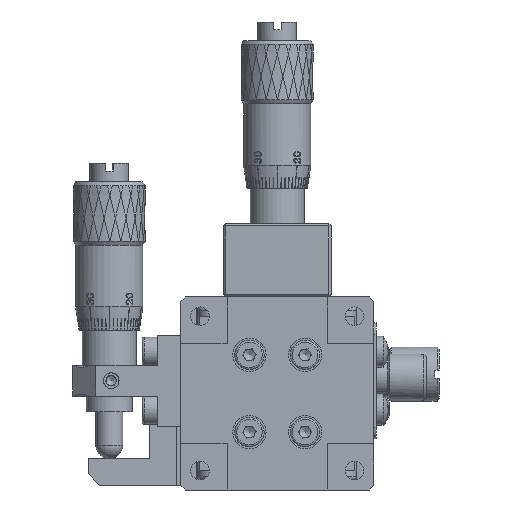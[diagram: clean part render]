
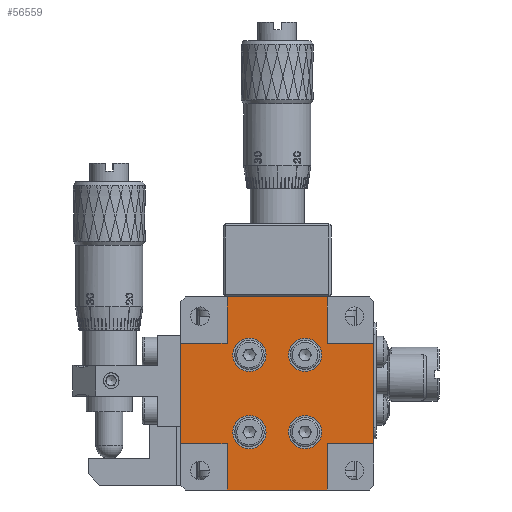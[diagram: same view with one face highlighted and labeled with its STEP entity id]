
A CAD part, front view. The second image highlights one B-rep face of the part: STEP entity #56559.
In plain terms, the highlighted planar face has unit normal (0, -1, 0).
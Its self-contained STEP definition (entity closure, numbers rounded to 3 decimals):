
#450 = DIRECTION ( 'NONE',  ( 0., -1., 0. ) ) ;
#1656 = DIRECTION ( 'NONE',  ( 1., 0., 0. ) ) ;
#3042 = ORIENTED_EDGE ( 'NONE', *, *, #81115, .T. ) ;
#3295 = DIRECTION ( 'NONE',  ( 0., 0., -1. ) ) ;
#5036 = VECTOR ( 'NONE', #32022, 1000. ) ;
#5492 = AXIS2_PLACEMENT_3D ( 'NONE', #22768, #15575, #99447 ) ;
#6249 = VERTEX_POINT ( 'NONE', #82988 ) ;
#6709 = DIRECTION ( 'NONE',  ( 0., 0., -1. ) ) ;
#6873 = VERTEX_POINT ( 'NONE', #98506 ) ;
#8362 = CARTESIAN_POINT ( 'NONE',  ( -11.801, -13.093, -15.1 ) ) ;
#9113 = CARTESIAN_POINT ( 'NONE',  ( -15.401, -13.093, -10.1 ) ) ;
#9147 = EDGE_CURVE ( 'NONE', #83153, #27662, #83366, .T. ) ;
#9647 = VERTEX_POINT ( 'NONE', #32112 ) ;
#10920 = EDGE_LOOP ( 'NONE', ( #60324 ) ) ;
#11198 = ORIENTED_EDGE ( 'NONE', *, *, #49402, .F. ) ;
#13043 = CARTESIAN_POINT ( 'NONE',  ( -27.901, -13.093, 2.4 ) ) ;
#13726 = CARTESIAN_POINT ( 'NONE',  ( -8.901, -13.093, -3.6 ) ) ;
#14181 = ORIENTED_EDGE ( 'NONE', *, *, #40535, .F. ) ;
#15575 = DIRECTION ( 'NONE',  ( 0., 1., 0. ) ) ;
#15745 = DIRECTION ( 'NONE',  ( -1., 0., 0. ) ) ;
#15871 = FACE_BOUND ( 'NONE', #10920, .T. ) ;
#16259 = LINE ( 'NONE', #85765, #70036 ) ;
#18106 = CARTESIAN_POINT ( 'NONE',  ( -27.901, -13.093, -3.6 ) ) ;
#19604 = ORIENTED_EDGE ( 'NONE', *, *, #30356, .T. ) ;
#21594 = EDGE_CURVE ( 'NONE', #63813, #9647, #39675, .T. ) ;
#22474 = EDGE_LOOP ( 'NONE', ( #65258, #61612, #69494, #73023, #11198, #66875, #50331, #56170, #57047, #46953, #14181, #73600 ) ) ;
#22768 = CARTESIAN_POINT ( 'NONE',  ( -11.801, -13.093, -5.1 ) ) ;
#23756 = VERTEX_POINT ( 'NONE', #93751 ) ;
#24083 = CARTESIAN_POINT ( 'NONE',  ( -2.901, -13.093, 2.4 ) ) ;
#24560 = FACE_BOUND ( 'NONE', #96759, .T. ) ;
#25045 = EDGE_CURVE ( 'NONE', #38047, #41346, #77220, .T. ) ;
#25195 = LINE ( 'NONE', #94195, #33863 ) ;
#25468 = VERTEX_POINT ( 'NONE', #13726 ) ;
#25813 = CARTESIAN_POINT ( 'NONE',  ( -21.901, -13.093, -22.6 ) ) ;
#25919 = AXIS2_PLACEMENT_3D ( 'NONE', #84991, #99331, #6709 ) ;
#27408 = CARTESIAN_POINT ( 'NONE',  ( -2.901, -13.093, -16.6 ) ) ;
#27662 = VERTEX_POINT ( 'NONE', #62823 ) ;
#29291 = VERTEX_POINT ( 'NONE', #77038 ) ;
#30356 = EDGE_CURVE ( 'NONE', #55612, #55612, #90579, .T. ) ;
#30638 = LINE ( 'NONE', #38290, #84148 ) ;
#31256 = AXIS2_PLACEMENT_3D ( 'NONE', #9113, #450, #80201 ) ;
#31882 = EDGE_CURVE ( 'NONE', #25468, #79050, #30638, .T. ) ;
#32022 = DIRECTION ( 'NONE',  ( 1., 0., 0. ) ) ;
#32112 = CARTESIAN_POINT ( 'NONE',  ( -8.901, -13.093, -22.6 ) ) ;
#33418 = CARTESIAN_POINT ( 'NONE',  ( -11.801, -13.093, -7.25 ) ) ;
#33863 = VECTOR ( 'NONE', #94698, 1000. ) ;
#38047 = VERTEX_POINT ( 'NONE', #91044 ) ;
#38290 = CARTESIAN_POINT ( 'NONE',  ( -2.901, -13.093, -3.6 ) ) ;
#39602 = DIRECTION ( 'NONE',  ( 0., 1., 0. ) ) ;
#39675 = LINE ( 'NONE', #70857, #5036 ) ;
#40535 = EDGE_CURVE ( 'NONE', #27662, #9647, #90953, .T. ) ;
#41346 = VERTEX_POINT ( 'NONE', #57630 ) ;
#41361 = VECTOR ( 'NONE', #43223, 1000. ) ;
#43223 = DIRECTION ( 'NONE',  ( 0., 0., -1. ) ) ;
#43492 = DIRECTION ( 'NONE',  ( 0., 0., -1. ) ) ;
#44038 = VECTOR ( 'NONE', #1656, 1000. ) ;
#44674 = VERTEX_POINT ( 'NONE', #94282 ) ;
#46945 = DIRECTION ( 'NONE',  ( 1., 0., 0. ) ) ;
#46953 = ORIENTED_EDGE ( 'NONE', *, *, #21594, .T. ) ;
#49402 = EDGE_CURVE ( 'NONE', #95494, #41346, #25195, .T. ) ;
#50305 = VECTOR ( 'NONE', #74692, 1000. ) ;
#50331 = ORIENTED_EDGE ( 'NONE', *, *, #84038, .T. ) ;
#51684 = EDGE_LOOP ( 'NONE', ( #19604 ) ) ;
#52259 = EDGE_CURVE ( 'NONE', #6249, #6249, #66701, .T. ) ;
#52529 = EDGE_CURVE ( 'NONE', #6873, #44674, #16259, .T. ) ;
#52711 = CARTESIAN_POINT ( 'NONE',  ( -2.901, -13.093, 2.4 ) ) ;
#55612 = VERTEX_POINT ( 'NONE', #86784 ) ;
#55720 = FACE_BOUND ( 'NONE', #51684, .T. ) ;
#55927 = LINE ( 'NONE', #18106, #44038 ) ;
#56170 = ORIENTED_EDGE ( 'NONE', *, *, #52529, .F. ) ;
#56559 = ADVANCED_FACE ( 'NONE', ( #96048, #24560, #15871, #55720, #72549 ), #57225, .T. ) ;
#57047 = ORIENTED_EDGE ( 'NONE', *, *, #91050, .F. ) ;
#57225 = PLANE ( 'NONE',  #31256 ) ;
#57630 = CARTESIAN_POINT ( 'NONE',  ( -21.901, -13.093, 2.4 ) ) ;
#58058 = LINE ( 'NONE', #67263, #41361 ) ;
#59273 = DIRECTION ( 'NONE',  ( 0., 0., -1. ) ) ;
#60324 = ORIENTED_EDGE ( 'NONE', *, *, #84209, .T. ) ;
#60820 = CIRCLE ( 'NONE', #77053, 2.15 ) ;
#60899 = CARTESIAN_POINT ( 'NONE',  ( -2.901, -13.093, -16.6 ) ) ;
#61195 = AXIS2_PLACEMENT_3D ( 'NONE', #8362, #39602, #70785 ) ;
#61425 = VECTOR ( 'NONE', #86414, 1000. ) ;
#61612 = ORIENTED_EDGE ( 'NONE', *, *, #31882, .F. ) ;
#62156 = CARTESIAN_POINT ( 'NONE',  ( -21.901, -13.093, -3.6 ) ) ;
#62823 = CARTESIAN_POINT ( 'NONE',  ( -8.901, -13.093, -16.6 ) ) ;
#63813 = VERTEX_POINT ( 'NONE', #25813 ) ;
#65258 = ORIENTED_EDGE ( 'NONE', *, *, #67497, .T. ) ;
#65428 = LINE ( 'NONE', #24083, #61425 ) ;
#66701 = CIRCLE ( 'NONE', #25919, 2.15 ) ;
#66875 = ORIENTED_EDGE ( 'NONE', *, *, #73416, .F. ) ;
#67051 = CARTESIAN_POINT ( 'NONE',  ( -2.901, -13.093, -3.6 ) ) ;
#67263 = CARTESIAN_POINT ( 'NONE',  ( -8.901, -13.093, 2.4 ) ) ;
#67497 = EDGE_CURVE ( 'NONE', #83153, #79050, #65428, .T. ) ;
#68256 = CARTESIAN_POINT ( 'NONE',  ( -21.901, -13.093, -22.6 ) ) ;
#69494 = ORIENTED_EDGE ( 'NONE', *, *, #84022, .F. ) ;
#70036 = VECTOR ( 'NONE', #15745, 1000. ) ;
#70785 = DIRECTION ( 'NONE',  ( 0., 0., -1. ) ) ;
#70857 = CARTESIAN_POINT ( 'NONE',  ( -2.901, -13.093, -22.6 ) ) ;
#72549 = FACE_OUTER_BOUND ( 'NONE', #22474, .T. ) ;
#73023 = ORIENTED_EDGE ( 'NONE', *, *, #25045, .T. ) ;
#73416 = EDGE_CURVE ( 'NONE', #29291, #95494, #55927, .T. ) ;
#73600 = ORIENTED_EDGE ( 'NONE', *, *, #9147, .F. ) ;
#74692 = DIRECTION ( 'NONE',  ( -1., 0., 0. ) ) ;
#75178 = DIRECTION ( 'NONE',  ( 0., 1., 0. ) ) ;
#75608 = CARTESIAN_POINT ( 'NONE',  ( -8.901, -13.093, -22.6 ) ) ;
#76407 = DIRECTION ( 'NONE',  ( 0., 0., 1. ) ) ;
#77038 = CARTESIAN_POINT ( 'NONE',  ( -27.901, -13.093, -3.6 ) ) ;
#77053 = AXIS2_PLACEMENT_3D ( 'NONE', #91525, #75178, #43492 ) ;
#77220 = LINE ( 'NONE', #52711, #77277 ) ;
#77277 = VECTOR ( 'NONE', #92566, 1000. ) ;
#78411 = VERTEX_POINT ( 'NONE', #33418 ) ;
#79050 = VERTEX_POINT ( 'NONE', #67051 ) ;
#80201 = DIRECTION ( 'NONE',  ( 0., 0., -1. ) ) ;
#81115 = EDGE_CURVE ( 'NONE', #23756, #23756, #60820, .T. ) ;
#81563 = LINE ( 'NONE', #13043, #90417 ) ;
#82988 = CARTESIAN_POINT ( 'NONE',  ( -19.001, -13.093, -7.25 ) ) ;
#83016 = ORIENTED_EDGE ( 'NONE', *, *, #52259, .T. ) ;
#83153 = VERTEX_POINT ( 'NONE', #27408 ) ;
#83366 = LINE ( 'NONE', #60899, #50305 ) ;
#83573 = LINE ( 'NONE', #68256, #83679 ) ;
#83679 = VECTOR ( 'NONE', #76407, 1000. ) ;
#84022 = EDGE_CURVE ( 'NONE', #38047, #25468, #58058, .T. ) ;
#84038 = EDGE_CURVE ( 'NONE', #29291, #44674, #81563, .T. ) ;
#84148 = VECTOR ( 'NONE', #46945, 1000. ) ;
#84209 = EDGE_CURVE ( 'NONE', #78411, #78411, #85542, .T. ) ;
#84991 = CARTESIAN_POINT ( 'NONE',  ( -19.001, -13.093, -5.1 ) ) ;
#85542 = CIRCLE ( 'NONE', #5492, 2.15 ) ;
#85765 = CARTESIAN_POINT ( 'NONE',  ( -27.901, -13.093, -16.6 ) ) ;
#86414 = DIRECTION ( 'NONE',  ( 0., 0., 1. ) ) ;
#86784 = CARTESIAN_POINT ( 'NONE',  ( -11.801, -13.093, -17.25 ) ) ;
#90417 = VECTOR ( 'NONE', #3295, 1000. ) ;
#90579 = CIRCLE ( 'NONE', #61195, 2.15 ) ;
#90953 = LINE ( 'NONE', #75608, #96143 ) ;
#91044 = CARTESIAN_POINT ( 'NONE',  ( -8.901, -13.093, 2.4 ) ) ;
#91050 = EDGE_CURVE ( 'NONE', #63813, #6873, #83573, .T. ) ;
#91525 = CARTESIAN_POINT ( 'NONE',  ( -19.001, -13.093, -15.1 ) ) ;
#92566 = DIRECTION ( 'NONE',  ( -1., 0., 0. ) ) ;
#93751 = CARTESIAN_POINT ( 'NONE',  ( -19.001, -13.093, -17.25 ) ) ;
#94195 = CARTESIAN_POINT ( 'NONE',  ( -21.901, -13.093, 2.4 ) ) ;
#94282 = CARTESIAN_POINT ( 'NONE',  ( -27.901, -13.093, -16.6 ) ) ;
#94698 = DIRECTION ( 'NONE',  ( 0., 0., 1. ) ) ;
#95494 = VERTEX_POINT ( 'NONE', #62156 ) ;
#96048 = FACE_BOUND ( 'NONE', #97026, .T. ) ;
#96143 = VECTOR ( 'NONE', #59273, 1000. ) ;
#96759 = EDGE_LOOP ( 'NONE', ( #83016 ) ) ;
#97026 = EDGE_LOOP ( 'NONE', ( #3042 ) ) ;
#98506 = CARTESIAN_POINT ( 'NONE',  ( -21.901, -13.093, -16.6 ) ) ;
#99331 = DIRECTION ( 'NONE',  ( 0., 1., 0. ) ) ;
#99447 = DIRECTION ( 'NONE',  ( 0., 0., -1. ) ) ;
